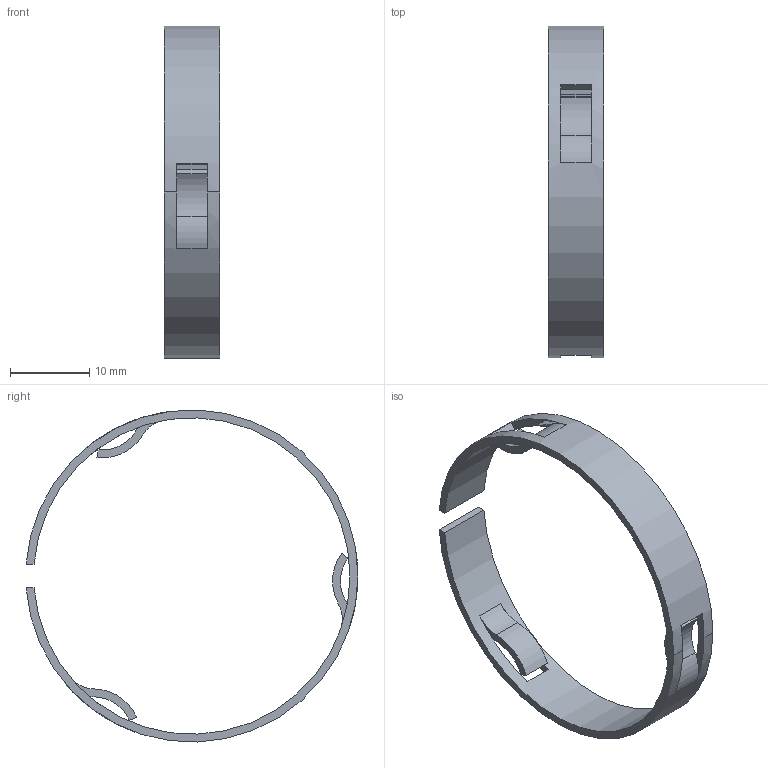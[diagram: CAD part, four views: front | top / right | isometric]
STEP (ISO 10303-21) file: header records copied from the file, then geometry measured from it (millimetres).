
FILE_DESCRIPTION((''),'2;1');
FILE_NAME('W:\211-172.stp','2003-10-08T15:36:31',('KAA'),(''),'Autodesk Inventor (R) 6.0','Autodesk Inventor (R) 6.0','');
FILE_SCHEMA(('CONFIG_CONTROL_DESIGN'));
Length unit declared in the file: millimetre
Products named in the file (1): 211-172
Bounding box: 7 x 41.95 x 41.97 mm (x, y, z)
Volume: 873.2 mm3; surface area: 2132 mm2
Topology: 1 solids, 1 shells, 38 faces, 108 edges, 70 vertices
Faces by surface type: plane 22, cylinder 16
Entity records: 1371 total; most frequent: DIRECTION 246, CARTESIAN_POINT 217, ORIENTED_EDGE 216, EDGE_CURVE 108, AXIS2_PLACEMENT_3D 99, VERTEX_POINT 70, CIRCLE 60, VECTOR 48
